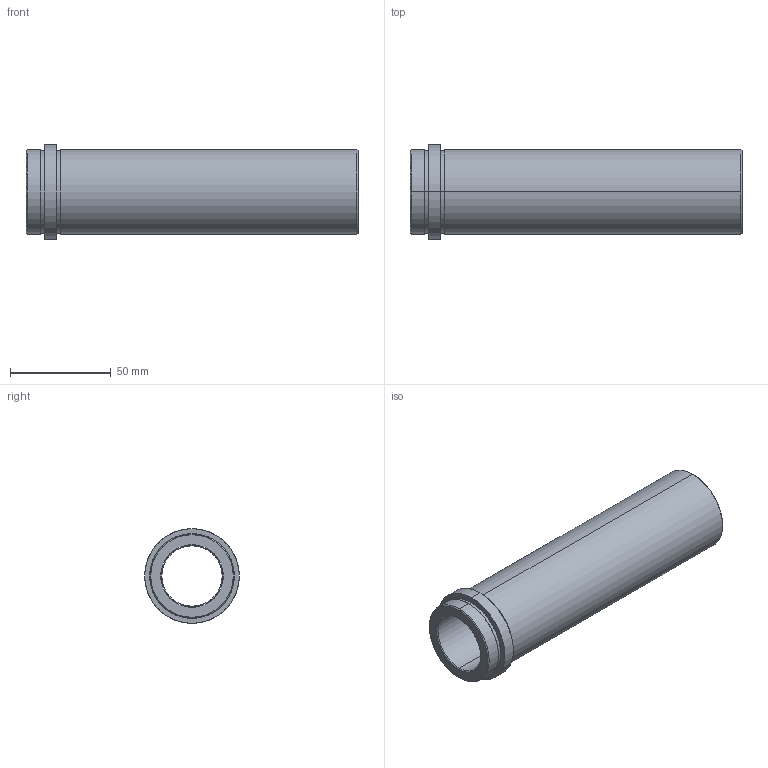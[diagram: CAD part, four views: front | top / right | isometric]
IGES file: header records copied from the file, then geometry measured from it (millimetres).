
Start section: SolidWorks IGES FILE using analytic representation for surfaces
Global section: file name: D:\zzzzz\Delta\D21\30\D21 - 30x156.IGS; native system: SolidWorks 2004 by SolidWorks Corporation; preprocessor: Version 5.3; author: Hkn; date: 080326.193037; units: millimetre
Bounding box: 165 x 47 x 47 mm (x, y, z)
Surface area: 39588.2 mm2 (no closed solid volume)
Topology: 0 solids, 0 shells, 26 faces, 848 edges, 848 vertices
Faces by surface type: revolution 20, bspline 6
